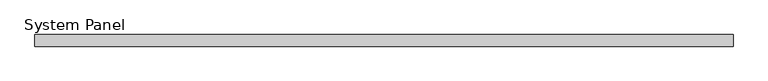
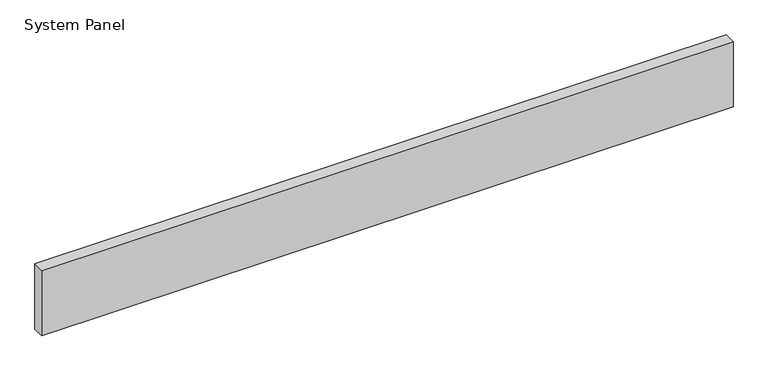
"""IFC4 building model written with IfcOpenShell, lengths in millimetres: plate geometry, System Panel : Equitilt_200mm_Plain_Surfmist."""

from ifc_helpers import new_model, si_unit, origin, origin_with_axes, place, context, project, spatial, polyline, outline, extrude, source, transform, mapped, element, save


def system_panel_923aaa1d(model_context):
    return source(origin(), model_context, "Body", "SweptSolid", [
        extrude(outline(polyline([(6000.0, 0.0), (-6000.0, 0.0), (-6000.0, 200.0), (6000.0, 200.0), (6000.0, 0.0)])), origin_with_axes(), (0.0, 0.0, 1.0), 1200.0),
    ])


if __name__ == "__main__":
    model = new_model("IFC4")
    model_context = context("Model", 3, world=origin())
    ifc_project = project(units=[si_unit("LENGTHUNIT", "METRE", prefix="MILLI")], contexts=[model_context])
    site = spatial("IfcSite", under=ifc_project)
    building = spatial("IfcBuilding", under=site)
    placement = place(None, origin())
    system_panel_shape = system_panel_923aaa1d(model_context)
    element("IfcPlate", 1, ObjectType="System Panel : Equitilt_200mm_Plain_Surfmist", at=placement, inside=building, context=model_context, shape_type="MappedRepresentation", body=[
        mapped(system_panel_shape, transform((0.0, 0.0, 0.0), x_axis=(1.0, 0.0, 0.0), y_axis=(0.0, 1.0, 0.0), z_axis=(0.0, 0.0, 1.0))),
    ])
    save(model, "model.ifc")
